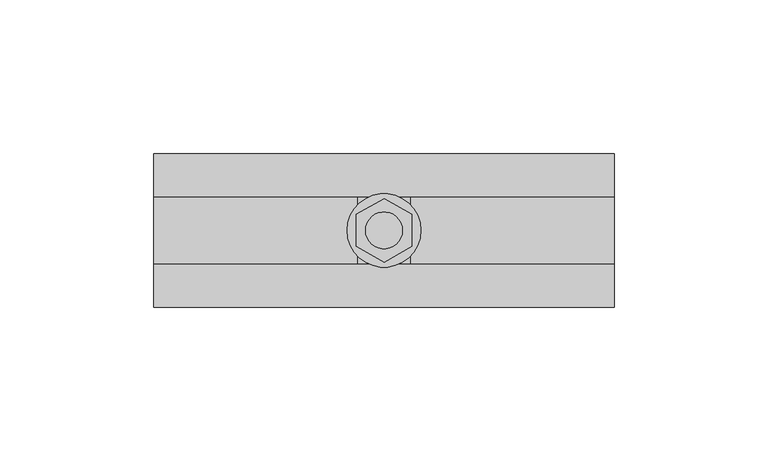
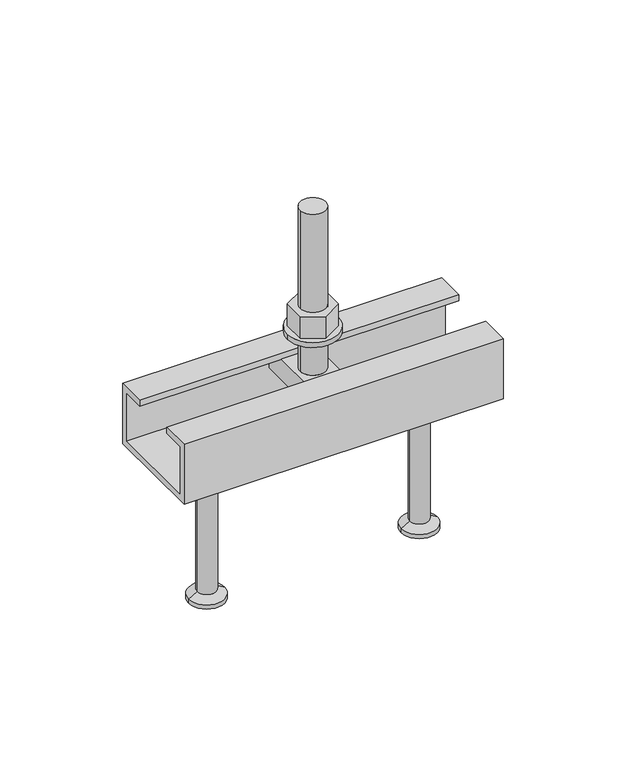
"""IFC4 building model written with IfcOpenShell, lengths in millimetres: fastener geometry, JTA-K JORDAHL® AnchorChannels : JTA-K L=150 mm."""

import ifcopenshell
import ifcopenshell.guid

model = None  # the IFC model being written
_history = None  # IfcOwnerHistory: only IFC2X3 demands one
_inside = {}  # id of a spatial element -> (the spatial element, [elements in it])
_under = {}  # id of a project, library or spatial element -> (it, [spatial elements below it])
_declared = {}  # id of a project -> (the project, [libraries it declares])
_typed = {}  # id of a type object -> (the type object, [elements of that type])
_made_of = {}  # id of a material, layer set ... -> (it, [elements and type objects made of it])


def new_model(schema):
    """Start an empty IFC model of exactly this schema.

    Asked for "IFC4X3", IfcOpenShell would pick the latest addendum, in which some entities
    have other attributes; the version numbers below select the first issue.
    IFC2X3 requires an IfcOwnerHistory on every rooted entity: one is made here for all.
    """
    global model, _history
    if schema == "IFC4X3":
        model = ifcopenshell.file(schema_version=(4, 3, 0, 0))
    else:
        model = ifcopenshell.file(schema=schema)
    _inside.clear()
    _under.clear()
    _declared.clear()
    _typed.clear()
    _made_of.clear()
    _history = None
    if model.schema == "IFC2X3":
        org = make("IfcOrganization", Name="unknown")
        user = make(
            "IfcPersonAndOrganization",
            ThePerson=make("IfcPerson", FamilyName="unknown"),
            TheOrganization=org,
        )
        app = make(
            "IfcApplication",
            ApplicationDeveloper=org,
            Version="unknown",
            ApplicationFullName="unknown",
            ApplicationIdentifier="unknown",
        )
        _history = make(
            "IfcOwnerHistory",
            OwningUser=user,
            OwningApplication=app,
            ChangeAction="ADDED",
            CreationDate=0,
        )
    return model


def make(cls, **values):
    """One entity of the class cls with the attributes given. An attribute that is None is left unset."""
    return model.create_entity(
        cls, **{name: value for name, value in values.items() if value is not None}
    )


def rooted(cls, **values):
    """An entity with a GlobalId (a new one), such as an element, a storey or a relation."""
    return make(cls, GlobalId=ifcopenshell.guid.new(), OwnerHistory=_history, **values)


def si_unit(unit_type, name, prefix=None):
    """IfcSIUnit, for example si_unit("LENGTHUNIT", "METRE", prefix="MILLI")."""
    return make("IfcSIUnit", UnitType=unit_type, Prefix=prefix, Name=name)


def assignment(units):
    """IfcUnitAssignment: the units of a project."""
    return None if units is None else make("IfcUnitAssignment", Units=units)


def point(xyz):
    """IfcCartesianPoint."""
    return None if xyz is None else make("IfcCartesianPoint", Coordinates=xyz)


def direction(xyz):
    """IfcDirection."""
    return None if xyz is None else make("IfcDirection", DirectionRatios=xyz)


def frame(location, z_axis=None, x_axis=None):
    """IfcAxis2Placement3D, a coordinate frame: its origin and axes. An axis left out is left unset."""
    return make(
        "IfcAxis2Placement3D",
        Location=point(location),
        Axis=direction(z_axis),
        RefDirection=direction(x_axis),
    )


def frame_2d(location, x_axis=None):
    """IfcAxis2Placement2D, a coordinate frame in the plane: its origin and x axis."""
    return make(
        "IfcAxis2Placement2D", Location=point(location), RefDirection=direction(x_axis)
    )


def origin():
    """The frame at (0, 0, 0) with its axes left unset."""
    return frame((0.0, 0.0, 0.0))


def place(relative_to, where):
    """IfcLocalPlacement: puts the frame where relative to a parent placement (None: the world)."""
    return make(
        "IfcLocalPlacement", PlacementRelTo=relative_to, RelativePlacement=where
    )


def context(
    kind, dimensions, precision=None, world=None, true_north=None, identifier=None
):
    """IfcGeometricRepresentationContext, for example the 3D "Model" context."""
    return make(
        "IfcGeometricRepresentationContext",
        ContextIdentifier=identifier,
        ContextType=kind,
        CoordinateSpaceDimension=dimensions,
        Precision=precision,
        WorldCoordinateSystem=world,
        TrueNorth=true_north,
    )


def project(units=None, contexts=None):
    """IfcProject with its units and contexts."""
    return rooted(
        "IfcProject",
        Name="project",
        RepresentationContexts=contexts,
        UnitsInContext=assignment(units),
    )


def spatial(cls, under=None, at=None, **own):
    """A site, building, storey or space (cls), placed at a placement, below another one or the project."""
    s = rooted(cls, ObjectPlacement=at, **own)
    if under is not None:
        _under.setdefault(under.id(), (under, []))[1].append(s)
    return s


def polyline(points):
    """IfcPolyline through the points."""
    return make("IfcPolyline", Points=[point(p) for p in points])


def circle_curve(where, radius):
    """IfcCircle in the frame where."""
    return make("IfcCircle", Position=where, Radius=radius)


def trimmed(basis, trim1, trim2, sense, master):
    """IfcTrimmedCurve: the piece of a basis curve between two trims."""
    return make(
        "IfcTrimmedCurve",
        BasisCurve=basis,
        Trim1=trim1,
        Trim2=trim2,
        SenseAgreement=sense,
        MasterRepresentation=master,
    )


def segment(curve, same_sense, transition):
    """IfcCompositeCurveSegment."""
    return make(
        "IfcCompositeCurveSegment",
        Transition=transition,
        SameSense=same_sense,
        ParentCurve=curve,
    )


def composite_curve(segments, self_intersect=None):
    """IfcCompositeCurve: segments joined end to end."""
    return make("IfcCompositeCurve", Segments=segments, SelfIntersect=self_intersect)


def outline(outer, holes=None, kind="AREA"):
    """IfcArbitraryClosedProfileDef: a profile drawn as a closed curve; with holes, ...WithVoids."""
    if holes is None:
        return make("IfcArbitraryClosedProfileDef", ProfileType=kind, OuterCurve=outer)
    return make(
        "IfcArbitraryProfileDefWithVoids",
        ProfileType=kind,
        OuterCurve=outer,
        InnerCurves=holes,
    )


def extrude(swept, where, along, depth):
    """IfcExtrudedAreaSolid: the profile swept, set in the frame where, extruded along a direction by depth."""
    return make(
        "IfcExtrudedAreaSolid",
        SweptArea=swept,
        Position=where,
        ExtrudedDirection=direction(along),
        Depth=depth,
    )


def shape(context_of_items, identifier, shape_type, items):
    """IfcShapeRepresentation: the items that make up one representation, for example the "Body"."""
    return make(
        "IfcShapeRepresentation",
        ContextOfItems=context_of_items,
        RepresentationIdentifier=identifier,
        RepresentationType=shape_type,
        Items=items,
    )


def source(mapping_origin, context_of_items, identifier, shape_type, items):
    """IfcRepresentationMap: a shape defined once, which mapped items show again and again."""
    return make(
        "IfcRepresentationMap",
        MappingOrigin=mapping_origin,
        MappedRepresentation=shape(context_of_items, identifier, shape_type, items),
    )


def transform(
    local_origin,
    x_axis=None,
    y_axis=None,
    z_axis=None,
    scale=None,
    scale2=None,
    scale3=None,
    uniform=True,
):
    """IfcCartesianTransformationOperator3D, or its non-uniform kind. x_axis, y_axis, z_axis: its Axis1, 2, 3."""
    if uniform:
        return make(
            "IfcCartesianTransformationOperator3D",
            Axis1=direction(x_axis),
            Axis2=direction(y_axis),
            LocalOrigin=point(local_origin),
            Scale=scale,
            Axis3=direction(z_axis),
        )
    return make(
        "IfcCartesianTransformationOperator3DnonUniform",
        Axis1=direction(x_axis),
        Axis2=direction(y_axis),
        LocalOrigin=point(local_origin),
        Scale=scale,
        Axis3=direction(z_axis),
        Scale2=scale2,
        Scale3=scale3,
    )


def mapped(mapping_source, mapping_target):
    """IfcMappedItem: shows the shape of a source again, moved by a transform."""
    return make(
        "IfcMappedItem", MappingSource=mapping_source, MappingTarget=mapping_target
    )


def made_of(thing, what):
    """Note that an element or type object is made of a material, layer set ...; save() writes the relation."""
    if what is not None:
        _made_of.setdefault(what.id(), (what, []))[1].append(thing)
    return thing


def element(
    cls,
    number,
    at=None,
    inside=None,
    cuts=None,
    type_object=None,
    material=None,
    context=None,
    identifier="Body",
    shape_type=None,
    held_by="IfcProductDefinitionShape",
    body=None,
    shapes=None,
    **own,
):
    """One element of the class cls, such as IfcWall. Its Tag is "e" and its number.

    at: its placement. inside: the storey or other place that contains it. cuts: it is an
    opening in that element (IfcRelVoidsElement). A single representation is given by context,
    identifier, shape_type and body (its items); several are given by shapes. held_by: the class
    of the entity that holds the representations. save() writes the other relations.
    """
    e = rooted(cls, Tag="e%d" % number, ObjectPlacement=at, **own)
    if body is not None:
        shapes = [shape(context, identifier, shape_type, body)]
    if shapes is not None:
        e.Representation = make(held_by, Representations=shapes)
    if inside is not None:
        _inside.setdefault(inside.id(), (inside, []))[1].append(e)
    if cuts is not None:
        rooted(
            "IfcRelVoidsElement", RelatingBuildingElement=cuts, RelatedOpeningElement=e
        )
    if type_object is not None:
        _typed.setdefault(type_object.id(), (type_object, []))[1].append(e)
    return made_of(e, material)


def aggregate(whole, parts):
    """IfcRelAggregates: a whole, such as a stair, and the parts it consists of."""
    return rooted("IfcRelAggregates", RelatingObject=whole, RelatedObjects=parts)


def save(model, path):
    """Write the relations noted so far, then the file.

    IfcRelAggregates (storeys below a building ...), IfcRelContainedInSpatialStructure (elements
    in a storey), IfcRelDefinesByType, IfcRelAssociatesMaterial and IfcRelDeclares: one each for
    every whole, place, type object, material and project.
    """
    for whole, parts in _under.values():
        aggregate(whole, parts)
    for where, things in _inside.values():
        rooted(
            "IfcRelContainedInSpatialStructure",
            RelatedElements=things,
            RelatingStructure=where,
        )
    for kind, things in _typed.values():
        rooted("IfcRelDefinesByType", RelatedObjects=things, RelatingType=kind)
    for what, things in _made_of.values():
        rooted("IfcRelAssociatesMaterial", RelatedObjects=things, RelatingMaterial=what)
    for by, libraries in _declared.values():
        rooted("IfcRelDeclares", RelatingContext=by, RelatedDefinitions=libraries)
    model.write(path)


def plane_surface(at):
    """IfcPlane: the flat surface through the origin of the frame at, square to its z axis."""
    return make("IfcPlane", Position=at)


def cylinder_surface(at, radius):
    """IfcCylindricalSurface: all points at the distance radius from the z axis of the frame at."""
    return make("IfcCylindricalSurface", Position=at, Radius=radius)


def revolved_surface(curve, axis_point, axis_direction):
    """IfcSurfaceOfRevolution: the curve turned about the line through axis_point along axis_direction."""
    return make(
        "IfcSurfaceOfRevolution",
        SweptCurve=make("IfcArbitraryOpenProfileDef", ProfileType="CURVE", Curve=curve),
        AxisPosition=make("IfcAxis1Placement", Location=point(axis_point), Axis=direction(axis_direction)),
    )


def advanced_brep(points, edges, surfaces, faces):
    """IfcAdvancedBrep: a solid bounded by faces that lie on surfaces and meet in shared edges.

    An edge is (start, end): straight between two places in points (the first is 0);
    or (start, end, curve); or (start, end, curve, False) where it runs against its curve.
    A face is (place in surfaces, loops), or (place, loops, False) where it looks against
    its surface's normal. A loop lists edges by number (the first is 1), with a minus sign
    where the edge is run from its end to its start. The first loop is the outer one.
    """
    corners = [point(p) for p in points]
    vertices = [make("IfcVertexPoint", VertexGeometry=c) for c in corners]
    made = []
    for start, end, *more in edges:
        made.append(
            make(
                "IfcEdgeCurve",
                EdgeStart=vertices[start],
                EdgeEnd=vertices[end],
                EdgeGeometry=more[0] if more else make("IfcPolyline", Points=[corners[start], corners[end]]),
                SameSense=more[1] if len(more) > 1 else True,
            )
        )
    hull = []
    for where, loops, *sense in faces:
        bounds = []
        for j, loop in enumerate(loops):
            ring = [make("IfcOrientedEdge", EdgeElement=made[abs(k) - 1], Orientation=k > 0) for k in loop]
            bounds.append(
                make(
                    "IfcFaceOuterBound" if j == 0 else "IfcFaceBound",
                    Bound=make("IfcEdgeLoop", EdgeList=ring),
                    Orientation=True,
                )
            )
        hull.append(make("IfcAdvancedFace", Bounds=bounds, FaceSurface=surfaces[where], SameSense=sense[0] if sense else True))
    return make("IfcAdvancedBrep", Outer=make("IfcClosedShell", CfsFaces=hull))


def fastener_2880c9a4(model_context):
    return source(origin(), model_context, "Body", "SolidModel", [
        extrude(outline(polyline([(75.0, -10.3923048), (66.0, -5.1961524), (66.0, 5.1961524), (75.0, 10.3923048), (84.0, 5.1961524), (84.0, -5.1961524), (75.0, -10.3923048)]), holes=[composite_curve([segment(trimmed(circle_curve(frame_2d((75.0, 0.0)), 6.0), [point((69.0, 0.0))], [point((81.0, 0.0))], True, "CARTESIAN"), True, "CONTINUOUS"), segment(trimmed(circle_curve(frame_2d((75.0, 0.0)), 6.0), [point((81.0, 0.0))], [point((69.0, 0.0))], True, "CARTESIAN"), True, "CONTINUOUS")], self_intersect=False)]), frame((0.0, 0.0, 17.5), z_axis=(0.0, 0.0, 1.0), x_axis=(1.0, 0.0, 0.0)), (0.0, 0.0, 1.0), 10.8),
        extrude(outline(composite_curve([segment(trimmed(circle_curve(frame_2d((75.0, 0.0)), 12.0), [point((63.0, 0.0))], [point((87.0, 0.0))], False, "CARTESIAN"), True, "CONTINUOUS"), segment(trimmed(circle_curve(frame_2d((75.0, 0.0)), 12.0), [point((87.0, 0.0))], [point((63.0, 0.0))], False, "CARTESIAN"), True, "CONTINUOUS")], self_intersect=False), holes=[composite_curve([segment(trimmed(circle_curve(frame_2d((75.0, 0.0)), 6.5), [point((68.5, 0.0))], [point((81.5, 0.0))], True, "CARTESIAN"), True, "CONTINUOUS"), segment(trimmed(circle_curve(frame_2d((75.0, 0.0)), 6.5), [point((81.5, 0.0))], [point((68.5, 0.0))], True, "CARTESIAN"), True, "CONTINUOUS")], self_intersect=False)]), frame((0.0, 0.0, 15.0), z_axis=(0.0, 0.0, 1.0), x_axis=(1.0, 0.0, 0.0)), (0.0, 0.0, 1.0), 2.5),
        advanced_brep(
        [(83.5, -20.7, -3.0), (83.5, -20.7, -13.0), (83.5, 20.7, -13.0), (83.5, 20.7, -3.0), (66.5, -20.7, -3.0), (66.5, 20.7, -3.0), (66.5, 20.7, -13.0), (66.5, -20.7, -13.0), (81.0, 0.0, -3.0), (69.0, 0.0, -3.0), (69.0, 0.0, 77.0), (81.0, 0.0, 77.0)],
        [
            (0, 1),
            (1, 2),
            (2, 3),
            (3, 0),
            (4, 5),
            (5, 6),
            (6, 7),
            (7, 4),
            (3, 5),
            (4, 0),
            (8, 9, circle_curve(frame((75.0, 0.0, -3.0), z_axis=(0.0, 0.0, -1.0), x_axis=(1.0, 0.0, 0.0)), 6.0)),
            (9, 8, circle_curve(frame((75.0, 0.0, -3.0), z_axis=(0.0, 0.0, -1.0), x_axis=(1.0, 0.0, 0.0)), 6.0)),
            (2, 6),
            (1, 7),
            (10, 11, circle_curve(frame((75.0, 0.0, 77.0), z_axis=(0.0, 0.0, 1.0), x_axis=(1.0, 0.0, 0.0)), 6.0)),
            (11, 10, circle_curve(frame((75.0, 0.0, 77.0), z_axis=(0.0, 0.0, 1.0), x_axis=(1.0, 0.0, 0.0)), 6.0)),
            (11, 8),
            (9, 10),
        ],
        [
            plane_surface(frame((83.5, 20.7, -3.0), z_axis=(1.0, 0.0, 0.0), x_axis=(0.0, 1.0, 0.0))),
            plane_surface(frame((66.5, 20.7, -3.0), z_axis=(-1.0, 0.0, 0.0), x_axis=(0.0, -1.0, 0.0))),
            plane_surface(frame((83.5, -20.7, -3.0), z_axis=(0.0, 0.0, 1.0), x_axis=(-1.0, 0.0, 0.0))),
            plane_surface(frame((83.5, 20.7, -3.0), z_axis=(0.0, 1.0, 0.0), x_axis=(-1.0, 0.0, 0.0))),
            plane_surface(frame((83.5, 20.7, -13.0), z_axis=(0.0, 0.0, -1.0), x_axis=(-1.0, 0.0, 0.0))),
            plane_surface(frame((83.5, -20.7, -13.0), z_axis=(0.0, -1.0, 0.0), x_axis=(-1.0, 0.0, 0.0))),
            plane_surface(frame((81.0, 0.0, 77.0), z_axis=(0.0, 0.0, 1.0), x_axis=(0.0, -1.0, 0.0))),
            cylinder_surface(frame((75.0, 0.0, -3.0), z_axis=(0.0, 0.0, 1.0), x_axis=(1.0, 0.0, 0.0)), 6.0),
        ],
        [
            (0, [[1, 2, 3, 4]]),
            (1, [[5, 6, 7, 8]]),
            (2, [[9, -5, 10, -4], [11, 12]]),
            (3, [[13, -6, -9, -3]]),
            (4, [[14, -7, -13, -2]]),
            (5, [[-10, -8, -14, -1]]),
            (6, [[15, 16]]),
            (7, [[17, -12, 18, -16]]),
            (7, [[-18, -11, -17, -15]]),
        ],
    ),
        advanced_brep(
        [(125.0, 0.0, -30.0), (111.5, 0.0, -30.0), (138.5, 0.0, -30.0), (116.5, 0.0, -100.0), (125.0, 0.0, -100.0), (133.5, 0.0, -100.0), (116.5, 0.0, -98.0), (133.5, 0.0, -98.0), (120.5, 0.0, -95.6905989), (129.5, 0.0, -95.6905989), (120.5, 0.0, -32.5), (129.5, 0.0, -32.5)],
        [
            (0, 1),
            (1, 2, circle_curve(frame((125.0, 0.0, -30.0), z_axis=(0.0, 0.0, 1.0), x_axis=(1.0, 0.0, 0.0)), 13.5)),
            (2, 0),
            (2, 1, circle_curve(frame((125.0, 0.0, -30.0), z_axis=(0.0, 0.0, 1.0), x_axis=(1.0, 0.0, 0.0)), 13.5)),
            (3, 4),
            (4, 5),
            (5, 3, circle_curve(frame((125.0, 0.0, -100.0), z_axis=(0.0, 0.0, -1.0), x_axis=(1.0, 0.0, 0.0)), 8.5)),
            (3, 5, circle_curve(frame((125.0, 0.0, -100.0), z_axis=(0.0, 0.0, -1.0), x_axis=(1.0, 0.0, 0.0)), 8.5)),
            (6, 3),
            (5, 7),
            (7, 6, circle_curve(frame((125.0, 0.0, -98.0), z_axis=(0.0, 0.0, -1.0), x_axis=(1.0, 0.0, 0.0)), 8.5)),
            (6, 7, circle_curve(frame((125.0, 0.0, -98.0), z_axis=(0.0, 0.0, -1.0), x_axis=(1.0, 0.0, 0.0)), 8.5)),
            (8, 6),
            (7, 9),
            (9, 8, circle_curve(frame((125.0, 0.0, -95.6905989), z_axis=(0.0, 0.0, -1.0), x_axis=(1.0, 0.0, 0.0)), 4.5)),
            (8, 9, circle_curve(frame((125.0, 0.0, -95.6905989), z_axis=(0.0, 0.0, -1.0), x_axis=(1.0, 0.0, 0.0)), 4.5)),
            (10, 8),
            (9, 11),
            (11, 10, circle_curve(frame((125.0, 0.0, -32.5), z_axis=(0.0, 0.0, -1.0), x_axis=(1.0, 0.0, 0.0)), 4.5)),
            (10, 11, circle_curve(frame((125.0, 0.0, -32.5), z_axis=(0.0, 0.0, -1.0), x_axis=(1.0, 0.0, 0.0)), 4.5)),
            (1, 10),
            (11, 2),
        ],
        [
            plane_surface(frame((125.0, 0.0, -30.0), z_axis=(0.0, 0.0, 1.0), x_axis=(1.0, 0.0, 0.0))),
            plane_surface(frame((125.0, 0.0, -100.0), z_axis=(0.0, 0.0, -1.0), x_axis=(1.0, 0.0, 0.0))),
            cylinder_surface(frame((125.0, 0.0, 2284.3150031), z_axis=(0.0, 0.0, 1.0), x_axis=(1.0, 0.0, 0.0)), 8.5),
            revolved_surface(polyline([(133.5, 0.0, -98.0), (129.5, 0.0, -95.6905989)]), (125.0, 0.0, 2284.3150031), (0.0, 0.0, 1.0)),
            cylinder_surface(frame((125.0, 0.0, 2284.3150031), z_axis=(0.0, 0.0, 1.0), x_axis=(1.0, 0.0, 0.0)), 4.5),
            revolved_surface(polyline([(129.5, 0.0, -32.5), (138.5, 0.0, -30.0)]), (125.0, 0.0, 2284.3150031), (0.0, 0.0, 1.0)),
        ],
        [
            (0, [[1, 2, 3]]),
            (0, [[-3, 4, -1]]),
            (1, [[5, 6, 7]]),
            (1, [[-6, -5, 8]]),
            (2, [[9, -7, 10, 11]]),
            (2, [[-10, -8, -9, 12]]),
            (3, [[13, -11, 14, 15]]),
            (3, [[-14, -12, -13, 16]]),
            (4, [[17, -15, 18, 19]]),
            (4, [[-18, -16, -17, 20]]),
            (5, [[21, -19, 22, -2]]),
            (5, [[-22, -20, -21, -4]]),
        ],
    ),
        advanced_brep(
        [(25.0, 0.0, -30.0), (11.5, 0.0, -30.0), (38.5, 0.0, -30.0), (16.5, 0.0, -100.0), (25.0, 0.0, -100.0), (33.5, 0.0, -100.0), (16.5, 0.0, -98.0), (33.5, 0.0, -98.0), (20.5, 0.0, -95.6905989), (29.5, 0.0, -95.6905989), (20.5, 0.0, -32.5), (29.5, 0.0, -32.5)],
        [
            (0, 1),
            (1, 2, circle_curve(frame((25.0, 0.0, -30.0), z_axis=(0.0, 0.0, 1.0), x_axis=(1.0, 0.0, 0.0)), 13.5)),
            (2, 0),
            (2, 1, circle_curve(frame((25.0, 0.0, -30.0), z_axis=(0.0, 0.0, 1.0), x_axis=(1.0, 0.0, 0.0)), 13.5)),
            (3, 4),
            (4, 5),
            (5, 3, circle_curve(frame((25.0, 0.0, -100.0), z_axis=(0.0, 0.0, -1.0), x_axis=(1.0, 0.0, 0.0)), 8.5)),
            (3, 5, circle_curve(frame((25.0, 0.0, -100.0), z_axis=(0.0, 0.0, -1.0), x_axis=(1.0, 0.0, 0.0)), 8.5)),
            (6, 3),
            (5, 7),
            (7, 6, circle_curve(frame((25.0, 0.0, -98.0), z_axis=(0.0, 0.0, -1.0), x_axis=(1.0, 0.0, 0.0)), 8.5)),
            (6, 7, circle_curve(frame((25.0, 0.0, -98.0), z_axis=(0.0, 0.0, -1.0), x_axis=(1.0, 0.0, 0.0)), 8.5)),
            (8, 6),
            (7, 9),
            (9, 8, circle_curve(frame((25.0, 0.0, -95.6905989), z_axis=(0.0, 0.0, -1.0), x_axis=(1.0, 0.0, 0.0)), 4.5)),
            (8, 9, circle_curve(frame((25.0, 0.0, -95.6905989), z_axis=(0.0, 0.0, -1.0), x_axis=(1.0, 0.0, 0.0)), 4.5)),
            (10, 8),
            (9, 11),
            (11, 10, circle_curve(frame((25.0, 0.0, -32.5), z_axis=(0.0, 0.0, -1.0), x_axis=(1.0, 0.0, 0.0)), 4.5)),
            (10, 11, circle_curve(frame((25.0, 0.0, -32.5), z_axis=(0.0, 0.0, -1.0), x_axis=(1.0, 0.0, 0.0)), 4.5)),
            (1, 10),
            (11, 2),
        ],
        [
            plane_surface(frame((25.0, 0.0, -30.0), z_axis=(0.0, 0.0, 1.0), x_axis=(1.0, 0.0, 0.0))),
            plane_surface(frame((25.0, 0.0, -100.0), z_axis=(0.0, 0.0, -1.0), x_axis=(1.0, 0.0, 0.0))),
            cylinder_surface(frame((25.0, 0.0, 2284.3150031), z_axis=(0.0, 0.0, 1.0), x_axis=(1.0, 0.0, 0.0)), 8.5),
            revolved_surface(polyline([(33.5, 0.0, -98.0), (29.5, 0.0, -95.6905989)]), (25.0, 0.0, 2284.3150031), (0.0, 0.0, 1.0)),
            cylinder_surface(frame((25.0, 0.0, 2284.3150031), z_axis=(0.0, 0.0, 1.0), x_axis=(1.0, 0.0, 0.0)), 4.5),
            revolved_surface(polyline([(29.5, 0.0, -32.5), (38.5, 0.0, -30.0)]), (25.0, 0.0, 2284.3150031), (0.0, 0.0, 1.0)),
        ],
        [
            (0, [[1, 2, 3]]),
            (0, [[-3, 4, -1]]),
            (1, [[5, 6, 7]]),
            (1, [[-6, -5, 8]]),
            (2, [[9, -7, 10, 11]]),
            (2, [[-10, -8, -9, 12]]),
            (3, [[13, -11, 14, 15]]),
            (3, [[-14, -12, -13, 16]]),
            (4, [[17, -15, 18, 19]]),
            (4, [[-18, -16, -17, 20]]),
            (5, [[21, -19, 22, -2]]),
            (5, [[-22, -20, -21, -4]]),
        ],
    ),
        extrude(outline(polyline([(-25.0, 0.0), (-11.0, 0.0), (-11.0, -3.0), (-22.0, -3.0), (-22.0, -27.0), (22.0, -27.0), (22.0, -3.0), (11.0, -3.0), (11.0, 0.0), (25.0, 0.0), (25.0, -30.0), (-25.0, -30.0), (-25.0, 0.0)])), frame((0.0, 0.0, 0.0), z_axis=(1.0, 0.0, 0.0), x_axis=(0.0, 1.0, 0.0)), (0.0, 0.0, 1.0), 150.0),
    ])


if __name__ == "__main__":
    model = new_model("IFC4")
    model_context = context("Model", 3, world=origin())
    ifc_project = project(units=[si_unit("LENGTHUNIT", "METRE", prefix="MILLI")], contexts=[model_context])
    site = spatial("IfcSite", under=ifc_project)
    building = spatial("IfcBuilding", under=site)
    placement = place(None, origin())
    fastener_shape = fastener_2880c9a4(model_context)
    element("IfcFastener", 1, ObjectType="JTA-K JORDAHL® AnchorChannels : JTA-K L=150 mm", at=placement, inside=building, context=model_context, shape_type="MappedRepresentation", body=[
        mapped(fastener_shape, transform((0.0, 0.0, 0.0), x_axis=(1.0, 0.0, 0.0), y_axis=(0.0, 1.0, 0.0), z_axis=(0.0, 0.0, 1.0))),
    ])
    save(model, "model.ifc")
